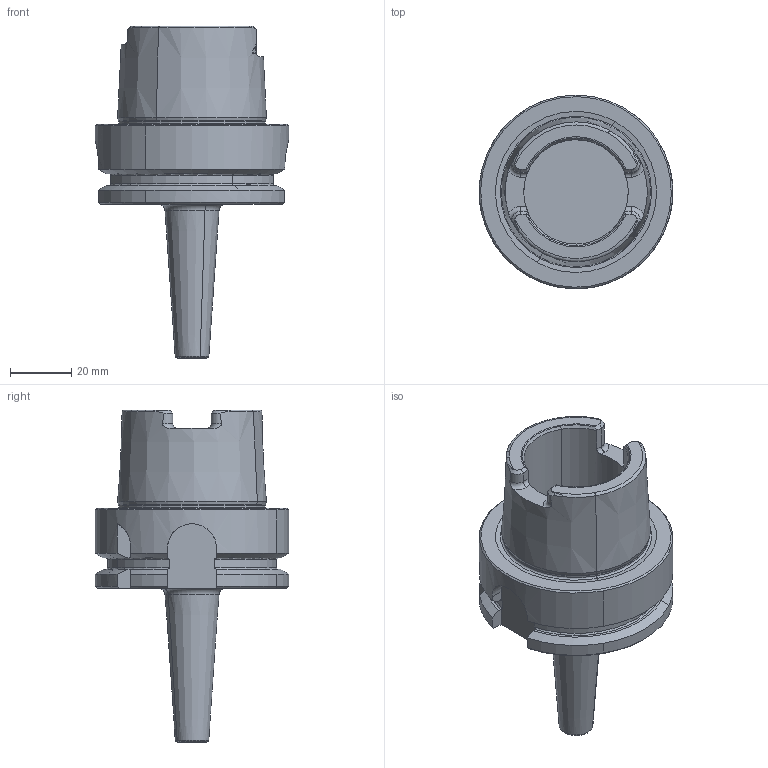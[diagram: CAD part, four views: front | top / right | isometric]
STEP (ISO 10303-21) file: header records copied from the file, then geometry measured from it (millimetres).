
FILE_DESCRIPTION(('CATIA V5 STEP','CAx-IF Rec.Pracs.--- Model Styling and Organization---1.2---2011-12-15'),'2;1');
FILE_NAME('\\nas01\drv1\utils\eitdev\rte\eit\transmagicconvert\db\out\4504446 L.stp','2014-03-23T09:32:23+00:00',('none'),('none'),'CATIA Version 5 Release 21 SP 5 (IN-10)','CATIA V5 STEP AP214','none');
FILE_SCHEMA(('AUTOMOTIVE_DESIGN { 1 0 10303 214 1 1 1 1 }'));
Length unit declared in the file: millimetre
Products named in the file (1): 60972198_0 Holder-Tool HSK A 63 SRK 6X50
Bounding box: 63 x 63 x 108 mm (x, y, z)
Volume: 98898.1 mm3; surface area: 23116.6 mm2
Topology: 1 solids, 1 shells, 134 faces, 347 edges, 218 vertices
Faces by surface type: plane 41, cone 35, cylinder 30, torus 28
Entity records: 4257 total; most frequent: CARTESIAN_POINT 1359, ORIENTED_EDGE 694, DIRECTION 428, EDGE_CURVE 347, AXIS2_PLACEMENT_3D 229, VERTEX_POINT 218, CIRCLE 149, EDGE_LOOP 137
